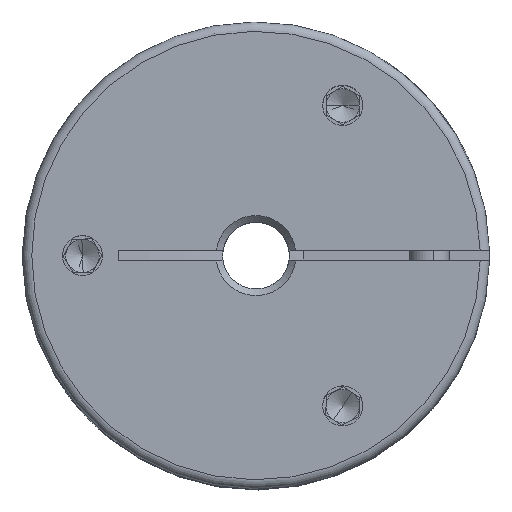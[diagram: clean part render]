
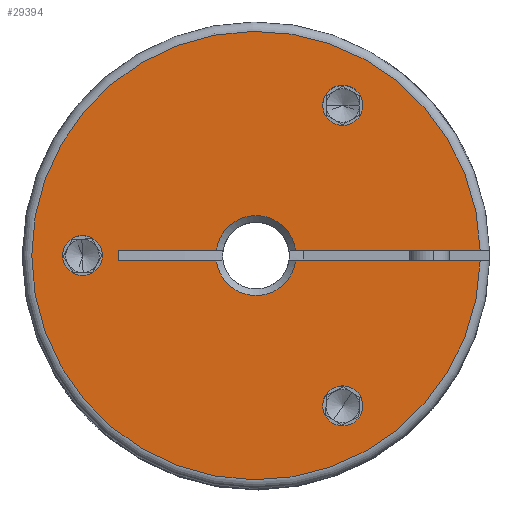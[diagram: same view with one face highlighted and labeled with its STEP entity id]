
A CAD part, top view. The second image highlights one B-rep face of the part: STEP entity #29394.
In plain terms, the highlighted planar face has unit normal (0, 0, 1).
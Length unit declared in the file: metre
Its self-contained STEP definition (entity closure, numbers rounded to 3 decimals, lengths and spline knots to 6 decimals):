
#504 = EDGE_CURVE ( 'NONE', #17286, #13791, #28170, .T. ) ;
#526 = DIRECTION ( 'NONE',  ( -1., 0., 0. ) ) ;
#644 = VECTOR ( 'NONE', #21336, 1. ) ;
#784 = EDGE_LOOP ( 'NONE', ( #21633, #15753, #17156, #14528, #18252, #29483, #24865, #27013 ) ) ;
#1212 = AXIS2_PLACEMENT_3D ( 'NONE', #26556, #21928, #1332 ) ;
#1332 = DIRECTION ( 'NONE',  ( 1., 0., 0. ) ) ;
#1394 = CIRCLE ( 'NONE', #24393, 0.003 ) ;
#1685 = CARTESIAN_POINT ( 'NONE',  ( -0.002973, 0.0004, 0.0187 ) ) ;
#1699 = CARTESIAN_POINT ( 'NONE',  ( 0., -0.0004, 0.0187 ) ) ;
#1771 = ORIENTED_EDGE ( 'NONE', *, *, #504, .F. ) ;
#2011 = CARTESIAN_POINT ( 'NONE',  ( 0.0065, -0.011258, 0.0187 ) ) ;
#2230 = AXIS2_PLACEMENT_3D ( 'NONE', #3807, #21617, #21744 ) ;
#2624 = CARTESIAN_POINT ( 'NONE',  ( -0.01033, -0.0004, 0.0187 ) ) ;
#2940 = VECTOR ( 'NONE', #5637, 1. ) ;
#3016 = CARTESIAN_POINT ( 'NONE',  ( 0., 0.0004, 0.0187 ) ) ;
#3345 = CARTESIAN_POINT ( 'NONE',  ( 0.002973, 0.0004, 0.0187 ) ) ;
#3487 = EDGE_CURVE ( 'NONE', #16028, #11646, #23316, .T. ) ;
#3807 = CARTESIAN_POINT ( 'NONE',  ( 0., 0., 0.0187 ) ) ;
#3862 = DIRECTION ( 'NONE',  ( 0., 0., 1. ) ) ;
#3874 = EDGE_CURVE ( 'NONE', #24127, #15031, #15576, .T. ) ;
#4037 = CIRCLE ( 'NONE', #5151, 0.003 ) ;
#4267 = FACE_BOUND ( 'NONE', #13781, .T. ) ;
#4800 = DIRECTION ( 'NONE',  ( 0., 0., 1. ) ) ;
#5141 = EDGE_CURVE ( 'NONE', #24561, #28861, #10731, .T. ) ;
#5151 = AXIS2_PLACEMENT_3D ( 'NONE', #24018, #21943, #24111 ) ;
#5637 = DIRECTION ( 'NONE',  ( -1., 0., 0. ) ) ;
#6439 = ORIENTED_EDGE ( 'NONE', *, *, #19155, .F. ) ;
#6484 = DIRECTION ( 'NONE',  ( 1., 0., 0. ) ) ;
#6569 = CARTESIAN_POINT ( 'NONE',  ( -0.013, 0., 0.0187 ) ) ;
#7022 = VERTEX_POINT ( 'NONE', #18244 ) ;
#7204 = DIRECTION ( 'NONE',  ( 1., 0., 0. ) ) ;
#8211 = ORIENTED_EDGE ( 'NONE', *, *, #20093, .F. ) ;
#8223 = EDGE_CURVE ( 'NONE', #8472, #19800, #1394, .T. ) ;
#8303 = DIRECTION ( 'NONE',  ( 1., 0., 0. ) ) ;
#8472 = VERTEX_POINT ( 'NONE', #1685 ) ;
#8498 = ORIENTED_EDGE ( 'NONE', *, *, #20578, .F. ) ;
#8599 = FACE_BOUND ( 'NONE', #14155, .T. ) ;
#8958 = DIRECTION ( 'NONE',  ( 1., 0., 0. ) ) ;
#9227 = EDGE_CURVE ( 'NONE', #7022, #24561, #26653, .T. ) ;
#9556 = EDGE_CURVE ( 'NONE', #8472, #25969, #23465, .T. ) ;
#10043 = CARTESIAN_POINT ( 'NONE',  ( -0.01033, 0.0004, 0.0187 ) ) ;
#10731 = LINE ( 'NONE', #23641, #13920 ) ;
#10919 = EDGE_CURVE ( 'NONE', #25969, #11646, #14954, .T. ) ;
#11646 = VERTEX_POINT ( 'NONE', #2624 ) ;
#12332 = CIRCLE ( 'NONE', #24055, 0.0015 ) ;
#12494 = CARTESIAN_POINT ( 'NONE',  ( 0.002973, -0.0004, 0.0187 ) ) ;
#13429 = CARTESIAN_POINT ( 'NONE',  ( 0.0065, -0.011258, 0.0187 ) ) ;
#13781 = EDGE_LOOP ( 'NONE', ( #8211, #22298 ) ) ;
#13791 = VERTEX_POINT ( 'NONE', #23063 ) ;
#13920 = VECTOR ( 'NONE', #28269, 1. ) ;
#14155 = EDGE_LOOP ( 'NONE', ( #20461, #8498 ) ) ;
#14528 = ORIENTED_EDGE ( 'NONE', *, *, #3487, .T. ) ;
#14726 = AXIS2_PLACEMENT_3D ( 'NONE', #6569, #24789, #22641 ) ;
#14954 = LINE ( 'NONE', #16959, #644 ) ;
#15031 = VERTEX_POINT ( 'NONE', #27932 ) ;
#15095 = VECTOR ( 'NONE', #24741, 1. ) ;
#15576 = CIRCLE ( 'NONE', #21391, 0.0015 ) ;
#15621 = DIRECTION ( 'NONE',  ( 0., 0., 1. ) ) ;
#15753 = ORIENTED_EDGE ( 'NONE', *, *, #5141, .T. ) ;
#15838 = LINE ( 'NONE', #17317, #2940 ) ;
#16028 = VERTEX_POINT ( 'NONE', #23716 ) ;
#16397 = VERTEX_POINT ( 'NONE', #18642 ) ;
#16552 = VERTEX_POINT ( 'NONE', #19603 ) ;
#16890 = CIRCLE ( 'NONE', #18214, 0.0015 ) ;
#16959 = CARTESIAN_POINT ( 'NONE',  ( -0.01033, -0.0004, 0.0187 ) ) ;
#17156 = ORIENTED_EDGE ( 'NONE', *, *, #19832, .T. ) ;
#17244 = PLANE ( 'NONE',  #1212 ) ;
#17286 = VERTEX_POINT ( 'NONE', #24654 ) ;
#17317 = CARTESIAN_POINT ( 'NONE',  ( 0., 0.0004, 0.0187 ) ) ;
#17704 = DIRECTION ( 'NONE',  ( 0., 0., 1. ) ) ;
#17780 = AXIS2_PLACEMENT_3D ( 'NONE', #18253, #18539, #25187 ) ;
#17868 = FACE_BOUND ( 'NONE', #23522, .T. ) ;
#18214 = AXIS2_PLACEMENT_3D ( 'NONE', #2011, #17704, #22304 ) ;
#18244 = CARTESIAN_POINT ( 'NONE',  ( 0.016795, 0.0004, 0.0187 ) ) ;
#18252 = ORIENTED_EDGE ( 'NONE', *, *, #10919, .F. ) ;
#18253 = CARTESIAN_POINT ( 'NONE',  ( 0.0065, 0.011258, 0.0187 ) ) ;
#18364 = CIRCLE ( 'NONE', #14726, 0.0015 ) ;
#18539 = DIRECTION ( 'NONE',  ( 0., 0., 1. ) ) ;
#18642 = CARTESIAN_POINT ( 'NONE',  ( 0.008, -0.011258, 0.0187 ) ) ;
#19155 = EDGE_CURVE ( 'NONE', #13791, #17286, #12332, .T. ) ;
#19603 = CARTESIAN_POINT ( 'NONE',  ( 0.005, -0.011258, 0.0187 ) ) ;
#19800 = VERTEX_POINT ( 'NONE', #3345 ) ;
#19832 = EDGE_CURVE ( 'NONE', #28861, #16028, #4037, .T. ) ;
#20093 = EDGE_CURVE ( 'NONE', #15031, #24127, #18364, .T. ) ;
#20121 = AXIS2_PLACEMENT_3D ( 'NONE', #13429, #15621, #8958 ) ;
#20346 = FACE_OUTER_BOUND ( 'NONE', #784, .T. ) ;
#20434 = EDGE_CURVE ( 'NONE', #7022, #19800, #15838, .T. ) ;
#20461 = ORIENTED_EDGE ( 'NONE', *, *, #28049, .F. ) ;
#20578 = EDGE_CURVE ( 'NONE', #16552, #16397, #16890, .T. ) ;
#20767 = CARTESIAN_POINT ( 'NONE',  ( -0.0145, 0., 0.0187 ) ) ;
#20868 = CARTESIAN_POINT ( 'NONE',  ( 0.0065, 0.011258, 0.0187 ) ) ;
#21336 = DIRECTION ( 'NONE',  ( 0., -1., 0. ) ) ;
#21391 = AXIS2_PLACEMENT_3D ( 'NONE', #21965, #3862, #8303 ) ;
#21617 = DIRECTION ( 'NONE',  ( 0., 0., 1. ) ) ;
#21633 = ORIENTED_EDGE ( 'NONE', *, *, #9227, .T. ) ;
#21744 = DIRECTION ( 'NONE',  ( 1., 0., 0. ) ) ;
#21928 = DIRECTION ( 'NONE',  ( 0., 0., 1. ) ) ;
#21943 = DIRECTION ( 'NONE',  ( 0., 0., -1. ) ) ;
#21965 = CARTESIAN_POINT ( 'NONE',  ( -0.013, 0., 0.0187 ) ) ;
#22298 = ORIENTED_EDGE ( 'NONE', *, *, #3874, .F. ) ;
#22304 = DIRECTION ( 'NONE',  ( 1., 0., 0. ) ) ;
#22641 = DIRECTION ( 'NONE',  ( 1., 0., 0. ) ) ;
#23063 = CARTESIAN_POINT ( 'NONE',  ( 0.005, 0.011258, 0.0187 ) ) ;
#23316 = LINE ( 'NONE', #1699, #15095 ) ;
#23465 = LINE ( 'NONE', #3016, #24165 ) ;
#23522 = EDGE_LOOP ( 'NONE', ( #1771, #6439 ) ) ;
#23641 = CARTESIAN_POINT ( 'NONE',  ( 0., -0.0004, 0.0187 ) ) ;
#23716 = CARTESIAN_POINT ( 'NONE',  ( -0.002973, -0.0004, 0.0187 ) ) ;
#24018 = CARTESIAN_POINT ( 'NONE',  ( 0., 0., 0.0187 ) ) ;
#24055 = AXIS2_PLACEMENT_3D ( 'NONE', #20868, #4800, #7204 ) ;
#24111 = DIRECTION ( 'NONE',  ( 1., 0., 0. ) ) ;
#24127 = VERTEX_POINT ( 'NONE', #20767 ) ;
#24165 = VECTOR ( 'NONE', #526, 1. ) ;
#24393 = AXIS2_PLACEMENT_3D ( 'NONE', #28963, #26686, #6484 ) ;
#24561 = VERTEX_POINT ( 'NONE', #24749 ) ;
#24654 = CARTESIAN_POINT ( 'NONE',  ( 0.008, 0.011258, 0.0187 ) ) ;
#24741 = DIRECTION ( 'NONE',  ( -1., 0., 0. ) ) ;
#24749 = CARTESIAN_POINT ( 'NONE',  ( 0.016795, -0.0004, 0.0187 ) ) ;
#24789 = DIRECTION ( 'NONE',  ( 0., 0., 1. ) ) ;
#24865 = ORIENTED_EDGE ( 'NONE', *, *, #8223, .T. ) ;
#25187 = DIRECTION ( 'NONE',  ( 1., 0., 0. ) ) ;
#25969 = VERTEX_POINT ( 'NONE', #10043 ) ;
#26556 = CARTESIAN_POINT ( 'NONE',  ( 0., 0., 0.0187 ) ) ;
#26653 = CIRCLE ( 'NONE', #2230, 0.0168 ) ;
#26686 = DIRECTION ( 'NONE',  ( 0., 0., -1. ) ) ;
#27013 = ORIENTED_EDGE ( 'NONE', *, *, #20434, .F. ) ;
#27873 = CIRCLE ( 'NONE', #20121, 0.0015 ) ;
#27932 = CARTESIAN_POINT ( 'NONE',  ( -0.0115, 0., 0.0187 ) ) ;
#28049 = EDGE_CURVE ( 'NONE', #16397, #16552, #27873, .T. ) ;
#28170 = CIRCLE ( 'NONE', #17780, 0.0015 ) ;
#28269 = DIRECTION ( 'NONE',  ( -1., 0., 0. ) ) ;
#28861 = VERTEX_POINT ( 'NONE', #12494 ) ;
#28963 = CARTESIAN_POINT ( 'NONE',  ( 0., 0., 0.0187 ) ) ;
#29394 = ADVANCED_FACE ( 'NONE', ( #4267, #17868, #8599, #20346 ), #17244, .T. ) ;
#29483 = ORIENTED_EDGE ( 'NONE', *, *, #9556, .F. ) ;
